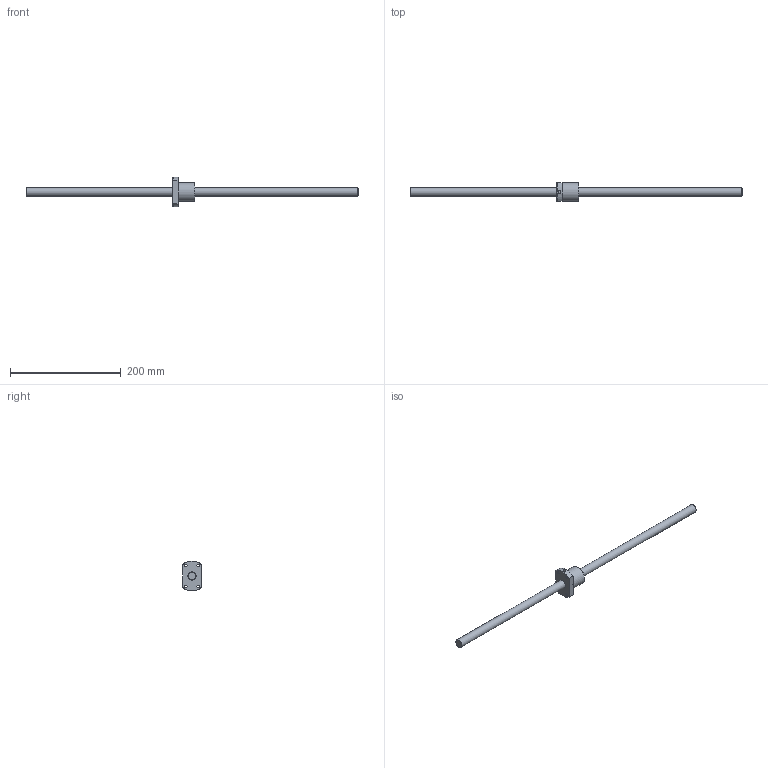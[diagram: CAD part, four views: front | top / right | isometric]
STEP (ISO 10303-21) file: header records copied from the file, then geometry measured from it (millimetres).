
FILE_DESCRIPTION((''),'2;1');
FILE_NAME('D:\製品 (図面)\カタログ用3D\ネジ関連\STEP形式\RBSMA\RBSMA1505-0600.stp','2010-06-02T14:42:40',('Tsuchiya'),(''),'Autodesk Inventor 10','Autodesk Inventor 10','');
FILE_SCHEMA(('AUTOMOTIVE_DESIGN { 1 0 10303 214 1 1 1 1 }'));
Length unit declared in the file: millimetre
Products named in the file (3): RBSMA1505-0600; RBSMA1505-06001; RBSMA1505-06002
Assembly tree (2 placements, depth 2):
  RBSMA1505-0600
    RBSMA1505-06001
    RBSMA1505-06002
Bounding box: 600 x 34 x 54 mm (x, y, z)
Volume: 142208.9 mm3; surface area: 38950.1 mm2
Topology: 2 solids, 2 shells, 25 faces, 63 edges, 42 vertices
Faces by surface type: cylinder 9, plane 8, cone 7, bspline 1
Full cylindrical faces by diameter (mm): 4.5 x4, 15 x2, 34 x1
Entity records: 891 total; most frequent: CARTESIAN_POINT 276, DIRECTION 120, ORIENTED_EDGE 94, AXIS2_PLACEMENT_3D 55, EDGE_LOOP 48, EDGE_CURVE 47, VERTEX_POINT 37, CIRCLE 26
